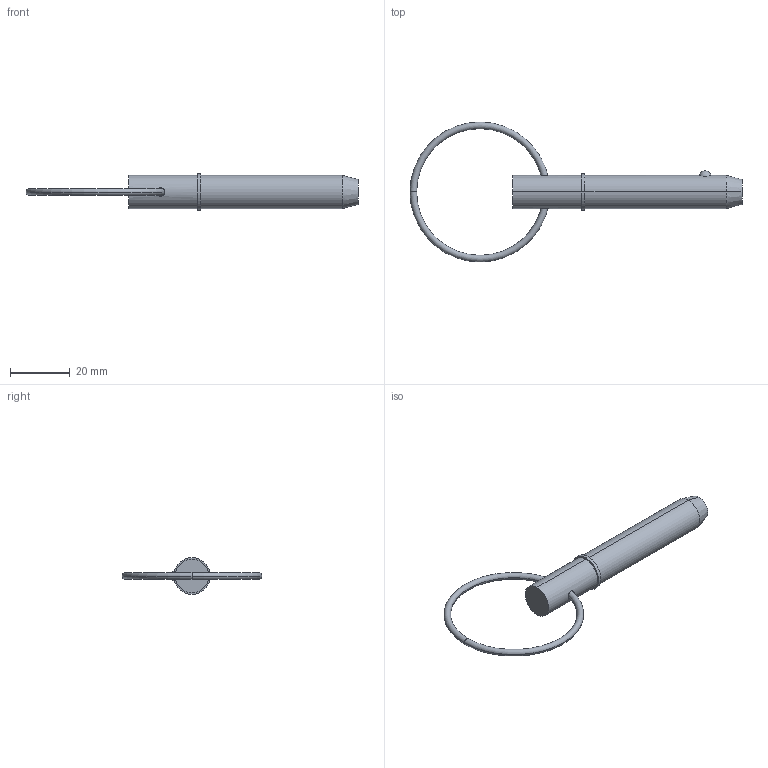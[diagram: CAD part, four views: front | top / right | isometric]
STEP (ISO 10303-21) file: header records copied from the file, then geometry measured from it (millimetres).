
FILE_DESCRIPTION (( 'STEP AP203' ), '1' );
FILE_NAME ('33014.W4315.step', '2024-11-04T08:28:06', ( '' ), ( '' ), 'SwSTEP 2.0', 'SolidWorks 2019', '' );
FILE_SCHEMA (( 'CONFIG_CONTROL_DESIGN' ));
Length unit declared in the file: millimetre
Products named in the file (3): Part1_33014.W4315; Part2_33014.W4315; 33014.W4315
Assembly tree (2 placements, depth 2):
  33014.W4315
    Part1_33014.W4315
    Part2_33014.W4315
Bounding box: 110.72 x 46.67 x 12.22 mm (x, y, z)
Volume: 7809.6 mm3; surface area: 3916.4 mm2
Topology: 2 solids, 2 shells, 22 faces, 43 edges, 26 vertices
Faces by surface type: torus 8, cylinder 6, plane 4, sphere 2, cone 2
Entity records: 1023 total; most frequent: CARTESIAN_POINT 246, DIRECTION 120, ORIENTED_EDGE 86, AXIS2_PLACEMENT_3D 56, EDGE_CURVE 43, CIRCLE 29, EDGE_LOOP 27, VERTEX_POINT 26
